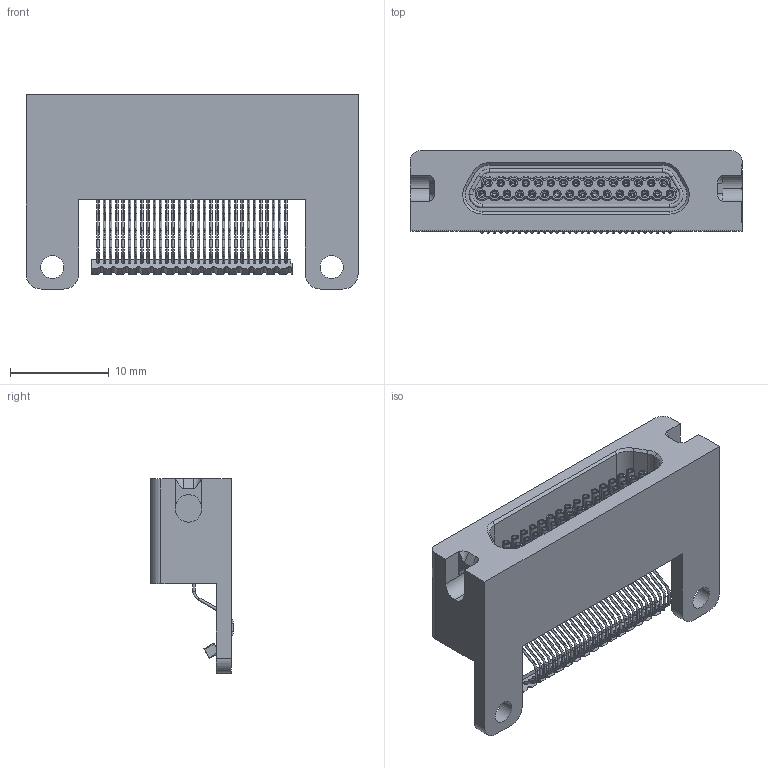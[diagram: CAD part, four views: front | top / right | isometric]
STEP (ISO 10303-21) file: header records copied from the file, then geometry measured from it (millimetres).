
FILE_DESCRIPTION (( 'STEP AP214' ), '1' );
FILE_NAME ('A99650-031 REV A.STEP', '2021-01-27T16:37:20', ( '' ), ( '' ), 'SwSTEP 2.0', 'SolidWorks 2019', '' );
FILE_SCHEMA (( 'AUTOMOTIVE_DESIGN' ));
Length unit declared in the file: inch
Products named in the file (1): A99650-031 REV A
Bounding box: 33.66 x 8.34 x 19.68 mm (x, y, z)
Volume: 2566 mm3; surface area: 3231.6 mm2
Topology: 1 solids, 4 shells, 1401 faces, 3389 edges, 2069 vertices
Faces by surface type: cylinder 660, torus 318, plane 298, cone 71, bspline 54
Entity records: 62020 total; most frequent: CARTESIAN_POINT 10042, DIRECTION 7795, ORIENTED_EDGE 6642, EDGE_CURVE 3321, AXIS2_PLACEMENT_3D 3246, VERTEX_POINT 2069, CIRCLE 1898, EDGE_LOOP 1608
